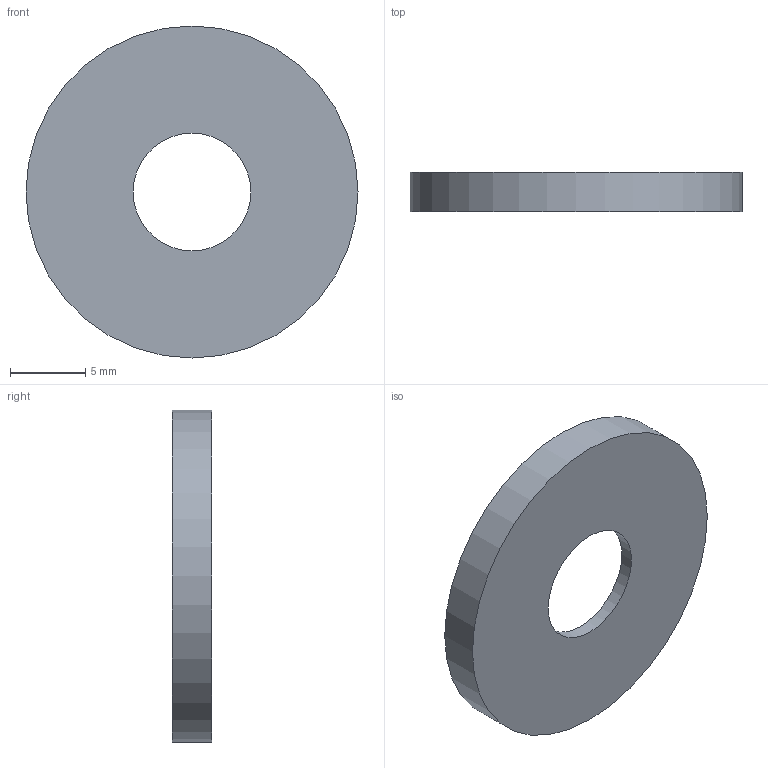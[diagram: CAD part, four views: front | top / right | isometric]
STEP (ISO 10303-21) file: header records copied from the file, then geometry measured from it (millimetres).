
FILE_DESCRIPTION(('FreeCAD Model'),'2;1');
FILE_NAME('Open CASCADE Shape Model','2022-10-12T14:21:28',(''),(''), 'Open CASCADE STEP processor 7.6','FreeCAD','Unknown');
FILE_SCHEMA(('AUTOMOTIVE_DESIGN { 1 0 10303 214 1 1 1 1 }'));
Length unit declared in the file: millimetre
Products named in the file (1): Revolution
Bounding box: 22 x 2.6 x 22 mm (x, y, z)
Volume: 411.3 mm3; surface area: 973.3 mm2
Topology: 1 solids, 1 shells, 6 faces, 9 edges, 6 vertices
Faces by surface type: cylinder 3, plane 3
Full cylindrical faces by diameter (mm): 7.8 x1, 20 x1, 22 x1
Entity records: 282 total; most frequent: DIRECTION 47, CARTESIAN_POINT 40, ORIENTED_EDGE 18, PCURVE 18, DEFINITIONAL_REPRESENTATION 18, LINE 15, VECTOR 15, AXIS2_PLACEMENT_3D 13
